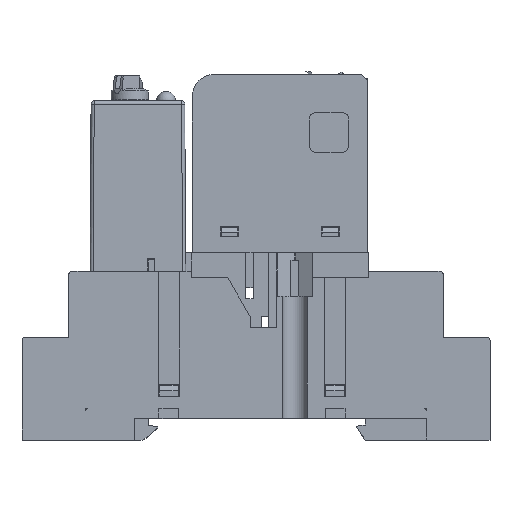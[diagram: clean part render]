
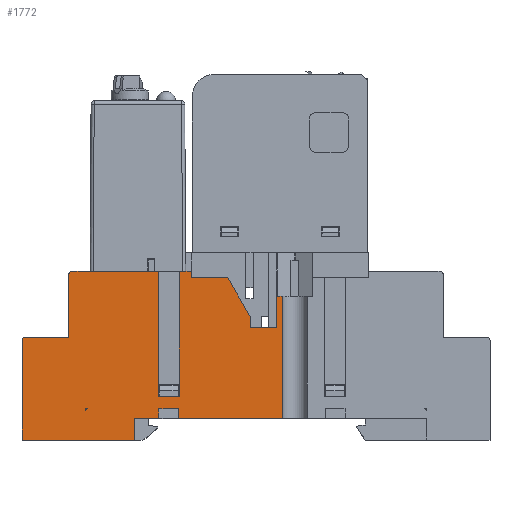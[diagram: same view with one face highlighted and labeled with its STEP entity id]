
A CAD part, top view. The second image highlights one B-rep face of the part: STEP entity #1772.
In plain terms, the highlighted planar face has unit normal (0, 0, 1).
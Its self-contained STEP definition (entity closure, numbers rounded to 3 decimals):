
#1772=ADVANCED_FACE('',(#32460,#32462),#32464,.T.);
#32460=FACE_BOUND('',#32461,.T.);
#32461=EDGE_LOOP('',(#61147,#61148,#61149,#61150,#61151,#61152,#61153,#61154,#61155,
#61156,#61157,#61158,#61159,#61160,#61161,#61162,#61163,#61164,#61165,#61166,#61167,
#61168,#61169,#61170,#61171));
#32462=FACE_BOUND('',#32463,.T.);
#32463=EDGE_LOOP('',(#61172,#61173,#61174));
#32464=PLANE('',#32465);
#32465=AXIS2_PLACEMENT_3D('',#32466,#32467,#32468);
#32466=CARTESIAN_POINT('',(-43.65,0.,15.));
#32467=DIRECTION('',(0.,0.,1.));
#32468=DIRECTION('',(1.,0.,0.));
#61147=ORIENTED_EDGE('',*,*,#79557,.T.);
#61148=ORIENTED_EDGE('',*,*,#79558,.T.);
#61149=ORIENTED_EDGE('',*,*,#79559,.T.);
#61150=ORIENTED_EDGE('',*,*,#79137,.F.);
#61151=ORIENTED_EDGE('',*,*,#79556,.F.);
#61152=ORIENTED_EDGE('',*,*,#79560,.T.);
#61153=ORIENTED_EDGE('',*,*,#79561,.T.);
#61154=ORIENTED_EDGE('',*,*,#79562,.F.);
#61155=ORIENTED_EDGE('',*,*,#79563,.F.);
#61156=ORIENTED_EDGE('',*,*,#79564,.T.);
#61157=ORIENTED_EDGE('',*,*,#79565,.T.);
#61158=ORIENTED_EDGE('',*,*,#79566,.F.);
#61159=ORIENTED_EDGE('',*,*,#79567,.T.);
#61160=ORIENTED_EDGE('',*,*,#79568,.T.);
#61161=ORIENTED_EDGE('',*,*,#79569,.T.);
#61162=ORIENTED_EDGE('',*,*,#79570,.F.);
#61163=ORIENTED_EDGE('',*,*,#79571,.T.);
#61164=ORIENTED_EDGE('',*,*,#79572,.F.);
#61165=ORIENTED_EDGE('',*,*,#79573,.T.);
#61166=ORIENTED_EDGE('',*,*,#79574,.T.);
#61167=ORIENTED_EDGE('',*,*,#79575,.T.);
#61168=ORIENTED_EDGE('',*,*,#79576,.T.);
#61169=ORIENTED_EDGE('',*,*,#79577,.T.);
#61170=ORIENTED_EDGE('',*,*,#79578,.T.);
#61171=ORIENTED_EDGE('',*,*,#79141,.F.);
#61172=ORIENTED_EDGE('',*,*,#79579,.T.);
#61173=ORIENTED_EDGE('',*,*,#79580,.T.);
#61174=ORIENTED_EDGE('',*,*,#79581,.F.);
#79137=EDGE_CURVE('',#88820,#88822,#88823,.T.);
#79141=EDGE_CURVE('',#88828,#88830,#88831,.T.);
#79556=EDGE_CURVE('',#89539,#88820,#89541,.F.);
#79557=EDGE_CURVE('',#88828,#89542,#89543,.F.);
#79558=EDGE_CURVE('',#89542,#89544,#89545,.F.);
#79559=EDGE_CURVE('',#89544,#88822,#89546,.F.);
#79560=EDGE_CURVE('',#89539,#89547,#89548,.F.);
#79561=EDGE_CURVE('',#89547,#89549,#89550,.T.);
#79562=EDGE_CURVE('',#89551,#89549,#89552,.F.);
#79563=EDGE_CURVE('',#89553,#89551,#89554,.T.);
#79564=EDGE_CURVE('',#89553,#89555,#89556,.T.);
#79565=EDGE_CURVE('',#89555,#89557,#89558,.T.);
#79566=EDGE_CURVE('',#89559,#89557,#89560,.T.);
#79567=EDGE_CURVE('',#89559,#89561,#89562,.F.);
#79568=EDGE_CURVE('',#89561,#89563,#89564,.F.);
#79569=EDGE_CURVE('',#89563,#89565,#89566,.F.);
#79570=EDGE_CURVE('',#89567,#89565,#89568,.T.);
#79571=EDGE_CURVE('',#89567,#89569,#89570,.T.);
#79572=EDGE_CURVE('',#89571,#89569,#89572,.T.);
#79573=EDGE_CURVE('',#89571,#89573,#89574,.F.);
#79574=EDGE_CURVE('',#89573,#89575,#89576,.F.);
#79575=EDGE_CURVE('',#89575,#89577,#89578,.F.);
#79576=EDGE_CURVE('',#89577,#89579,#89580,.F.);
#79577=EDGE_CURVE('',#89579,#89581,#89582,.F.);
#79578=EDGE_CURVE('',#89581,#88830,#89583,.F.);
#79579=EDGE_CURVE('',#89584,#89585,#89586,.F.);
#79580=EDGE_CURVE('',#89585,#89587,#89588,.F.);
#79581=EDGE_CURVE('',#89584,#89587,#89589,.F.);
#88820=VERTEX_POINT('',#105069);
#88822=VERTEX_POINT('',#105073);
#88823=LINE('',#105074,#105075);
#88828=VERTEX_POINT('',#105085);
#88830=VERTEX_POINT('',#105089);
#88831=LINE('',#105090,#105091);
#89539=VERTEX_POINT('',#106681);
#89541=CIRCLE('',#106685,0.5);
#89542=VERTEX_POINT('',#106689);
#89543=LINE('',#106690,#106691);
#89544=VERTEX_POINT('',#106693);
#89545=LINE('',#106694,#106695);
#89546=LINE('',#106697,#106698);
#89547=VERTEX_POINT('',#106700);
#89548=LINE('',#106701,#106702);
#89549=VERTEX_POINT('',#106704);
#89550=LINE('',#106705,#106706);
#89551=VERTEX_POINT('',#106708);
#89552=CIRCLE('',#106709,0.5);
#89553=VERTEX_POINT('',#106713);
#89554=LINE('',#106714,#106715);
#89555=VERTEX_POINT('',#106717);
#89556=LINE('',#106718,#106719);
#89557=VERTEX_POINT('',#106721);
#89558=LINE('',#106722,#106723);
#89559=VERTEX_POINT('',#106725);
#89560=LINE('',#106726,#106727);
#89561=VERTEX_POINT('',#106729);
#89562=LINE('',#106730,#106731);
#89563=VERTEX_POINT('',#106733);
#89564=LINE('',#106734,#106735);
#89565=VERTEX_POINT('',#106737);
#89566=LINE('',#106738,#106739);
#89567=VERTEX_POINT('',#106741);
#89568=LINE('',#106742,#106743);
#89569=VERTEX_POINT('',#106745);
#89570=LINE('',#106746,#106747);
#89571=VERTEX_POINT('',#106749);
#89572=LINE('',#106750,#106751);
#89573=VERTEX_POINT('',#106753);
#89574=LINE('',#106754,#106755);
#89575=VERTEX_POINT('',#106757);
#89576=LINE('',#106758,#106759);
#89577=VERTEX_POINT('',#106761);
#89578=LINE('',#106762,#106763);
#89579=VERTEX_POINT('',#106765);
#89580=LINE('',#106766,#106767);
#89581=VERTEX_POINT('',#106769);
#89582=LINE('',#106770,#106771);
#89583=LINE('',#106773,#106774);
#89584=VERTEX_POINT('',#106776);
#89585=VERTEX_POINT('',#106777);
#89586=LINE('',#106778,#106779);
#89587=VERTEX_POINT('',#106781);
#89588=LINE('',#106782,#106783);
#89589=CIRCLE('',#106785,0.3);
#105069=CARTESIAN_POINT('',(-35.65,27.,15.));
#105073=CARTESIAN_POINT('',(-21.85,27.,15.));
#105074=CARTESIAN_POINT('',(-35.65,27.,15.));
#105075=VECTOR('',#105076,1.);
#105076=DIRECTION('',(1.,0.,0.));
#105085=CARTESIAN_POINT('',(-18.45,27.,15.));
#105089=CARTESIAN_POINT('',(-16.55,27.,15.));
#105090=CARTESIAN_POINT('',(-18.45,27.,15.));
#105091=VECTOR('',#105092,1.);
#105092=DIRECTION('',(1.,0.,0.));
#106681=CARTESIAN_POINT('',(-36.15,26.5,15.));
#106685=AXIS2_PLACEMENT_3D('',#106686,#106687,#106688);
#106686=CARTESIAN_POINT('',(-35.65,26.5,15.));
#106687=DIRECTION('',(0.,-0.,1.));
#106688=DIRECTION('',(0.,1.,0.));
#106689=CARTESIAN_POINT('',(-18.45,7.,15.));
#106690=CARTESIAN_POINT('',(-18.45,7.,15.));
#106691=VECTOR('',#106692,1.);
#106692=DIRECTION('',(0.,1.,0.));
#106693=CARTESIAN_POINT('',(-21.85,7.,15.));
#106694=CARTESIAN_POINT('',(-21.85,7.,15.));
#106695=VECTOR('',#106696,1.);
#106696=DIRECTION('',(1.,0.,0.));
#106697=CARTESIAN_POINT('',(-21.85,27.,15.));
#106698=VECTOR('',#106699,1.);
#106699=DIRECTION('',(0.,-1.,0.));
#106700=CARTESIAN_POINT('',(-36.15,16.5,15.));
#106701=CARTESIAN_POINT('',(-36.15,16.5,15.));
#106702=VECTOR('',#106703,1.);
#106703=DIRECTION('',(0.,1.,0.));
#106704=CARTESIAN_POINT('',(-43.15,16.5,15.));
#106705=CARTESIAN_POINT('',(-36.15,16.5,15.));
#106706=VECTOR('',#106707,1.);
#106707=DIRECTION('',(-1.,0.,0.));
#106708=CARTESIAN_POINT('',(-43.65,16.,15.));
#106709=AXIS2_PLACEMENT_3D('',#106710,#106711,#106712);
#106710=CARTESIAN_POINT('',(-43.15,16.,15.));
#106711=DIRECTION('',(0.,-0.,1.));
#106712=DIRECTION('',(0.,1.,0.));
#106713=CARTESIAN_POINT('',(-43.65,0.,15.));
#106714=CARTESIAN_POINT('',(-43.65,0.,15.));
#106715=VECTOR('',#106716,1.);
#106716=DIRECTION('',(0.,1.,0.));
#106717=CARTESIAN_POINT('',(-25.65,0.,15.));
#106718=CARTESIAN_POINT('',(-43.65,0.,15.));
#106719=VECTOR('',#106720,1.);
#106720=DIRECTION('',(1.,0.,0.));
#106721=CARTESIAN_POINT('',(-25.65,3.5,15.));
#106722=CARTESIAN_POINT('',(-25.65,0.,15.));
#106723=VECTOR('',#106724,1.);
#106724=DIRECTION('',(0.,1.,0.));
#106725=CARTESIAN_POINT('',(-21.75,3.5,15.));
#106726=CARTESIAN_POINT('',(-21.75,3.5,15.));
#106727=VECTOR('',#106728,1.);
#106728=DIRECTION('',(-1.,0.,0.));
#106729=CARTESIAN_POINT('',(-21.75,5.,15.));
#106730=CARTESIAN_POINT('',(-21.75,5.,15.));
#106731=VECTOR('',#106732,1.);
#106732=DIRECTION('',(0.,-1.,0.));
#106733=CARTESIAN_POINT('',(-18.55,5.,15.));
#106734=CARTESIAN_POINT('',(-18.55,5.,15.));
#106735=VECTOR('',#106736,1.);
#106736=DIRECTION('',(-1.,0.,0.));
#106737=CARTESIAN_POINT('',(-18.55,3.5,15.));
#106738=CARTESIAN_POINT('',(-18.55,3.5,15.));
#106739=VECTOR('',#106740,1.);
#106740=DIRECTION('',(0.,1.,0.));
#106741=CARTESIAN_POINT('',(-2.,3.5,15.));
#106742=CARTESIAN_POINT('',(-2.,3.5,15.));
#106743=VECTOR('',#106744,1.);
#106744=DIRECTION('',(-1.,0.,0.));
#106745=CARTESIAN_POINT('',(-2.,23.,15.));
#106746=CARTESIAN_POINT('',(-2.,3.5,15.));
#106747=VECTOR('',#106748,1.);
#106748=DIRECTION('',(0.,1.,0.));
#106749=CARTESIAN_POINT('',(-2.9,23.,15.));
#106750=CARTESIAN_POINT('',(-2.9,23.,15.));
#106751=VECTOR('',#106752,1.);
#106752=DIRECTION('',(1.,0.,0.));
#106753=CARTESIAN_POINT('',(-2.9,18.,15.));
#106754=CARTESIAN_POINT('',(-2.9,18.,15.));
#106755=VECTOR('',#106756,1.);
#106756=DIRECTION('',(0.,1.,0.));
#106757=CARTESIAN_POINT('',(-7.15,18.,15.));
#106758=CARTESIAN_POINT('',(-7.15,18.,15.));
#106759=VECTOR('',#106760,1.);
#106760=DIRECTION('',(1.,0.,0.));
#106761=CARTESIAN_POINT('',(-7.15,19.8,15.));
#106762=CARTESIAN_POINT('',(-7.15,19.8,15.));
#106763=VECTOR('',#106764,1.);
#106764=DIRECTION('',(0.,-1.,0.));
#106765=CARTESIAN_POINT('',(-10.73,26.,15.));
#106766=CARTESIAN_POINT('',(-10.73,26.,15.));
#106767=VECTOR('',#106768,1.);
#106768=DIRECTION('',(0.5,-0.866,0.));
#106769=CARTESIAN_POINT('',(-16.55,26.,15.));
#106770=CARTESIAN_POINT('',(-16.55,26.,15.));
#106771=VECTOR('',#106772,1.);
#106772=DIRECTION('',(1.,0.,0.));
#106773=CARTESIAN_POINT('',(-16.55,27.,15.));
#106774=VECTOR('',#106775,1.);
#106775=DIRECTION('',(0.,-1.,0.));
#106776=CARTESIAN_POINT('',(-33.45,4.7,15.));
#106777=CARTESIAN_POINT('',(-33.45,5.,15.));
#106778=CARTESIAN_POINT('',(-33.45,5.,15.));
#106779=VECTOR('',#106780,1.);
#106780=DIRECTION('',(0.,-1.,0.));
#106781=CARTESIAN_POINT('',(-33.15,5.,15.));
#106782=CARTESIAN_POINT('',(-33.15,5.,15.));
#106783=VECTOR('',#106784,1.);
#106784=DIRECTION('',(-1.,0.,0.));
#106785=AXIS2_PLACEMENT_3D('',#106786,#106787,#106788);
#106786=CARTESIAN_POINT('',(-33.15,4.7,15.));
#106787=DIRECTION('',(0.,-0.,1.));
#106788=DIRECTION('',(0.,1.,0.));
